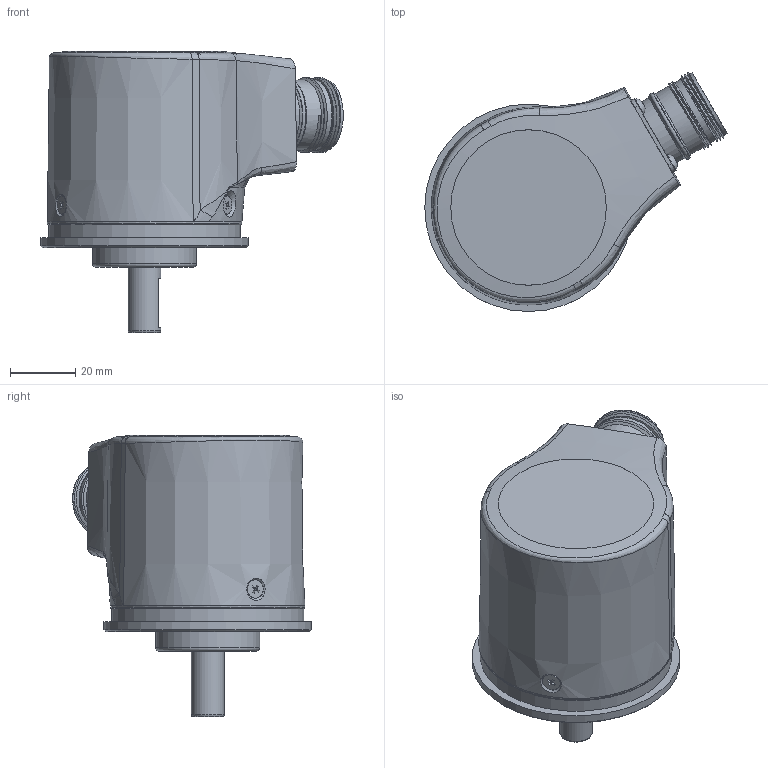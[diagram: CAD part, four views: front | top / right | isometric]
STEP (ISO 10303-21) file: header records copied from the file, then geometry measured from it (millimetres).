
FILE_DESCRIPTION(/* description */ ('Unknown'),/* implementation_level */ '2;1');
FILE_NAME(/* name */ 'EAR_EAMR_63_A_HAR',/* time_stamp */ '2018-04-19T15:22:41+02:00',/* author */ ('Unknown'),/* organization */ ('Unknown'),/* preprocessor_version */ 'ST-DEVELOPER v16.7',/* originating_system */ 'DEX',/* authorisation */ $);
FILE_SCHEMA (('AUTOMOTIVE_DESIGN {1 0 10303 214 3 1 1}'));
Length unit declared in the file: millimetre
Products named in the file (1): tmpEAR_EAMR_63_A_HAR
Bounding box: 92.55 x 73.12 x 86 mm (x, y, z)
Volume: 90310.5 mm3; surface area: 47651 mm2
Topology: 2 solids, 20 shells, 502 faces, 1238 edges, 812 vertices
Faces by surface type: plane 238, cylinder 139, cone 69, torus 23, bspline 21, sphere 12
Full cylindrical faces by diameter (mm): 1 x12, 1.15 x12, 1.65 x12, 2.013 x7, 2.459 x10, 3 x10, 3.1 x4, 3.4 x3, 4.134 x6, 5.6 x3, 6 x4, 8 x6, 10 x1, 10.4 x1, 18.5 x1, 19.25 x1, 20 x1, 21.5 x6, 22 x3, 22.1 x2, 22.667 x1, 22.691 x1, 29 x2, 31.75 x1, 36 x1, 51.2 x1, 54 x3, 56 x1, 58.7 x1, 59.5 x1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
Entity records: 19515 total; most frequent: CARTESIAN_POINT 6162, DIRECTION 2015, ORIENTED_EDGE 1700, AXIS2_PLACEMENT_3D 862, EDGE_CURVE 850, FACE_BOUND 813, EDGE_LOOP 795, VERTEX_POINT 673
